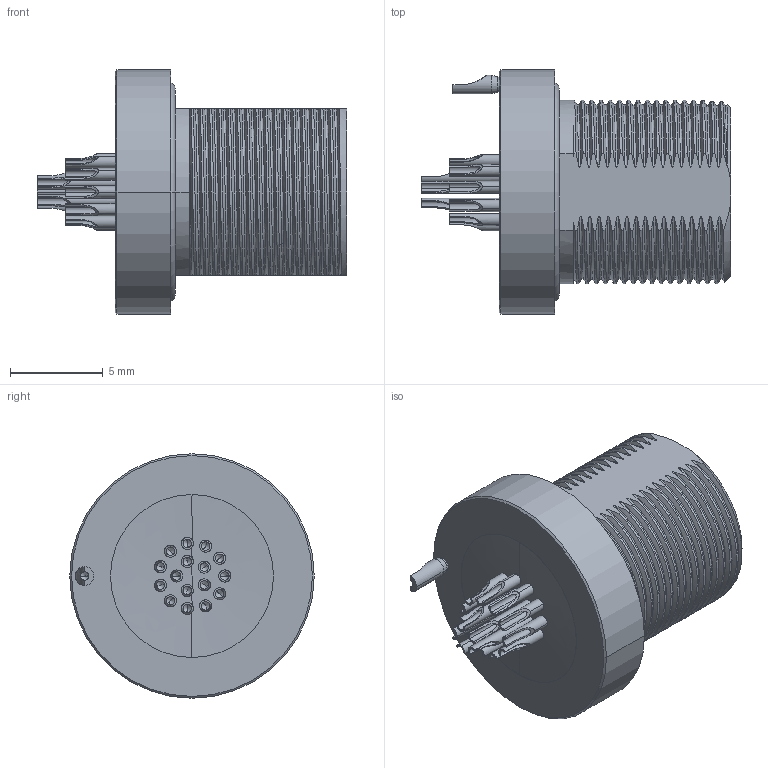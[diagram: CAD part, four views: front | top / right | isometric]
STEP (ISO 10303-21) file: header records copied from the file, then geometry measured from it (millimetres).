
FILE_DESCRIPTION((''),'2;1');
FILE_NAME('00160361--_ASM','2020-10-29T11:14:13',('EUnterhaslberger'),(''),'CREO PARAMETRIC BY PTC INC, 2018300','CREO PARAMETRIC BY PTC INC, 2018300','');
FILE_SCHEMA(('AP242_MANAGED_MODEL_BASED_3D_ENGINEERING_MIM_LF { 1 0 10303 442 1 1 4 }'));
Products named in the file (4): TEMP_SW_STEP_MONOBLOCK_1_1; TEMP_SW_STEP_MONOBLOCK_1_2; TEMP_SW_STEP_MONOBLOCK_1_ASM; 00160361--_ASM
Assembly tree (3 placements, depth 3):
  00160361--_ASM
    TEMP_SW_STEP_MONOBLOCK_1_ASM
      TEMP_SW_STEP_MONOBLOCK_1_1
      TEMP_SW_STEP_MONOBLOCK_1_2
Bounding box: 16.7 x 13.2 x 13.2 mm (x, y, z)
Volume: 828.6 mm3; surface area: 1351.6 mm2
Topology: 2 solids, 2 shells, 656 faces, 1817 edges, 1195 vertices
Faces by surface type: cylinder 236, plane 198, bspline 121, cone 79, torus 21, sphere 1
Entity records: 41635 total; most frequent: CARTESIAN_POINT 21471, ORIENTED_EDGE 3562, DIRECTION 2773, EDGE_CURVE 1781, VERTEX_POINT 1195, AXIS2_PLACEMENT_3D 1059, EDGE_LOOP 724, FACE_OUTER_BOUND 656
